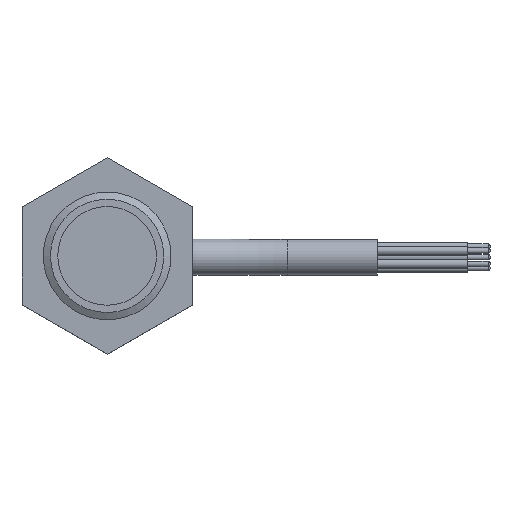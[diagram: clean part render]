
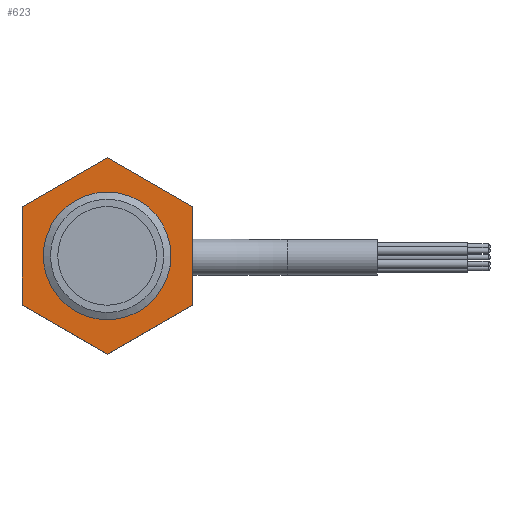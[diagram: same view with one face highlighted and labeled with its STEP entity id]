
A CAD part, top view. The second image highlights one B-rep face of the part: STEP entity #623.
In plain terms, the highlighted planar face has unit normal (0, 0, 1).
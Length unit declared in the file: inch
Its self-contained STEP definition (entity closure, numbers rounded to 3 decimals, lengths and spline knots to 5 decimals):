
#398=CARTESIAN_POINT('',(0.35433,0.,0.156));
#399=VERTEX_POINT('',#398);
#400=CARTESIAN_POINT('',(0.0,0.0,0.156));
#401=DIRECTION('',(0.0,0.0,-1.0));
#402=DIRECTION('',(-1.0,0.0,0.0));
#403=AXIS2_PLACEMENT_3D('',#400,#401,#402);
#404=CIRCLE('',#403,0.35433);
#405=EDGE_CURVE('',#399,#399,#404,.T.);
#426=CARTESIAN_POINT('',(-0.47244,-0.27276,0.156));
#427=VERTEX_POINT('',#426);
#428=CARTESIAN_POINT('',(-0.47244,0.27276,0.156));
#429=VERTEX_POINT('',#428);
#430=CARTESIAN_POINT('',(-0.47244,-0.27276,0.156));
#431=DIRECTION('',(0.0,1.0,0.0));
#432=VECTOR('',#431,0.54553);
#433=LINE('',#430,#432);
#434=EDGE_CURVE('',#427,#429,#433,.T.);
#466=CARTESIAN_POINT('',(0.,0.54553,0.156));
#467=VERTEX_POINT('',#466);
#468=CARTESIAN_POINT('',(-0.47244,0.27276,0.156));
#469=DIRECTION('',(0.866,0.5,0.0));
#470=VECTOR('',#469,0.54553);
#471=LINE('',#468,#470);
#472=EDGE_CURVE('',#429,#467,#471,.T.);
#497=CARTESIAN_POINT('',(0.47244,0.27276,0.156));
#498=VERTEX_POINT('',#497);
#499=CARTESIAN_POINT('',(0.,0.54553,0.156));
#500=DIRECTION('',(0.866,-0.5,0.0));
#501=VECTOR('',#500,0.54553);
#502=LINE('',#499,#501);
#503=EDGE_CURVE('',#467,#498,#502,.T.);
#528=CARTESIAN_POINT('',(0.47244,-0.27276,0.156));
#529=VERTEX_POINT('',#528);
#530=CARTESIAN_POINT('',(0.47244,0.27276,0.156));
#531=DIRECTION('',(0.0,-1.0,0.0));
#532=VECTOR('',#531,0.54553);
#533=LINE('',#530,#532);
#534=EDGE_CURVE('',#498,#529,#533,.T.);
#559=CARTESIAN_POINT('',(0.,-0.54553,0.156));
#560=VERTEX_POINT('',#559);
#561=CARTESIAN_POINT('',(0.47244,-0.27276,0.156));
#562=DIRECTION('',(-0.866,-0.5,0.0));
#563=VECTOR('',#562,0.54553);
#564=LINE('',#561,#563);
#565=EDGE_CURVE('',#529,#560,#564,.T.);
#590=CARTESIAN_POINT('',(0.,-0.54553,0.156));
#591=DIRECTION('',(-0.866,0.5,0.0));
#592=VECTOR('',#591,0.54553);
#593=LINE('',#590,#592);
#594=EDGE_CURVE('',#560,#427,#593,.T.);
#607=CARTESIAN_POINT('',(0.,0.,0.156));
#608=DIRECTION('',(0.0,0.0,1.0));
#609=DIRECTION('',(1.0,0.0,0.0));
#610=AXIS2_PLACEMENT_3D('',#607,#608,#609);
#611=PLANE('',#610);
#612=ORIENTED_EDGE('',*,*,#434,.F.);
#613=ORIENTED_EDGE('',*,*,#594,.F.);
#614=ORIENTED_EDGE('',*,*,#565,.F.);
#615=ORIENTED_EDGE('',*,*,#534,.F.);
#616=ORIENTED_EDGE('',*,*,#503,.F.);
#617=ORIENTED_EDGE('',*,*,#472,.F.);
#618=EDGE_LOOP('',(#612,#613,#614,#615,#616,#617));
#619=FACE_OUTER_BOUND('',#618,.T.);
#620=ORIENTED_EDGE('',*,*,#405,.T.);
#621=EDGE_LOOP('',(#620));
#622=FACE_BOUND('',#621,.T.);
#623=ADVANCED_FACE('',(#619,#622),#611,.T.);
